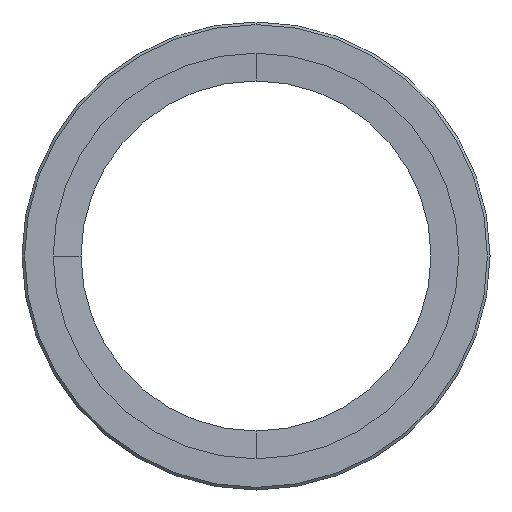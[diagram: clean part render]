
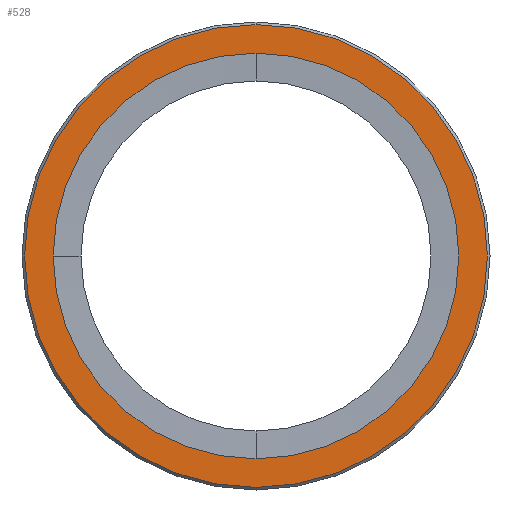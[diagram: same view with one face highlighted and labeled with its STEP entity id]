
A CAD part, front view. The second image highlights one B-rep face of the part: STEP entity #528.
In plain terms, the highlighted planar face has unit normal (0, -1, 0).
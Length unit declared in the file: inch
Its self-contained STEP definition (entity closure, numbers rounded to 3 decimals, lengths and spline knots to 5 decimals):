
#54 = EDGE_LOOP ( 'NONE', ( #913, #290 ) ) ;
#64 = VERTEX_POINT ( 'NONE', #274 ) ;
#87 = CIRCLE ( 'NONE', #566, 1.53543 ) ;
#94 = EDGE_LOOP ( 'NONE', ( #1527, #647 ) ) ;
#110 = DIRECTION ( 'NONE',  ( 0., -1., 0. ) ) ;
#149 = DIRECTION ( 'NONE',  ( 0., 0., 1. ) ) ;
#151 = EDGE_CURVE ( 'NONE', #165, #1292, #1073, .T. ) ;
#165 = VERTEX_POINT ( 'NONE', #928 ) ;
#170 = DIRECTION ( 'NONE',  ( 0., -1., 0. ) ) ;
#233 = DIRECTION ( 'NONE',  ( 0., 1., 0. ) ) ;
#241 = DIRECTION ( 'NONE',  ( 0., 0., 1. ) ) ;
#274 = CARTESIAN_POINT ( 'NONE',  ( 0., -0.3937, -1.75197 ) ) ;
#290 = ORIENTED_EDGE ( 'NONE', *, *, #151, .T. ) ;
#352 = PLANE ( 'NONE',  #485 ) ;
#365 = AXIS2_PLACEMENT_3D ( 'NONE', #1240, #170, #1411 ) ;
#485 = AXIS2_PLACEMENT_3D ( 'NONE', #1319, #672, #1363 ) ;
#528 = ADVANCED_FACE ( 'NONE', ( #1106, #965 ), #352, .F. ) ;
#566 = AXIS2_PLACEMENT_3D ( 'NONE', #1317, #233, #1327 ) ;
#647 = ORIENTED_EDGE ( 'NONE', *, *, #1337, .T. ) ;
#672 = DIRECTION ( 'NONE',  ( 0., 1., 0. ) ) ;
#702 = AXIS2_PLACEMENT_3D ( 'NONE', #1002, #1360, #149 ) ;
#731 = CARTESIAN_POINT ( 'NONE',  ( 0., -0.3937, 0. ) ) ;
#913 = ORIENTED_EDGE ( 'NONE', *, *, #1214, .T. ) ;
#928 = CARTESIAN_POINT ( 'NONE',  ( 0., -0.3937, 1.53543 ) ) ;
#934 = CARTESIAN_POINT ( 'NONE',  ( 0., -0.3937, -1.53543 ) ) ;
#965 = FACE_OUTER_BOUND ( 'NONE', #94, .T. ) ;
#984 = CIRCLE ( 'NONE', #1468, 1.75197 ) ;
#1002 = CARTESIAN_POINT ( 'NONE',  ( 0., -0.3937, 0. ) ) ;
#1073 = CIRCLE ( 'NONE', #702, 1.53543 ) ;
#1106 = FACE_BOUND ( 'NONE', #54, .T. ) ;
#1214 = EDGE_CURVE ( 'NONE', #1292, #165, #87, .T. ) ;
#1232 = EDGE_CURVE ( 'NONE', #1573, #64, #984, .T. ) ;
#1240 = CARTESIAN_POINT ( 'NONE',  ( 0., -0.3937, 0. ) ) ;
#1292 = VERTEX_POINT ( 'NONE', #934 ) ;
#1299 = CIRCLE ( 'NONE', #365, 1.75197 ) ;
#1317 = CARTESIAN_POINT ( 'NONE',  ( 0., -0.3937, 0. ) ) ;
#1319 = CARTESIAN_POINT ( 'NONE',  ( 0., -0.3937, 0. ) ) ;
#1327 = DIRECTION ( 'NONE',  ( 0., 0., 1. ) ) ;
#1337 = EDGE_CURVE ( 'NONE', #64, #1573, #1299, .T. ) ;
#1360 = DIRECTION ( 'NONE',  ( 0., 1., 0. ) ) ;
#1363 = DIRECTION ( 'NONE',  ( 1., 0., 0. ) ) ;
#1411 = DIRECTION ( 'NONE',  ( 0., 0., 1. ) ) ;
#1468 = AXIS2_PLACEMENT_3D ( 'NONE', #731, #110, #241 ) ;
#1499 = CARTESIAN_POINT ( 'NONE',  ( 0., -0.3937, 1.75197 ) ) ;
#1527 = ORIENTED_EDGE ( 'NONE', *, *, #1232, .T. ) ;
#1573 = VERTEX_POINT ( 'NONE', #1499 ) ;
